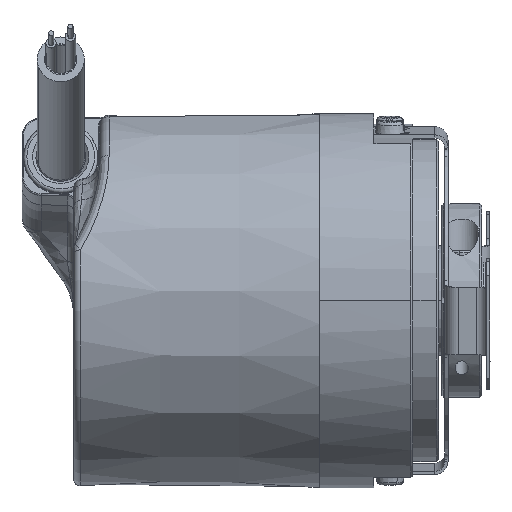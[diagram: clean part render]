
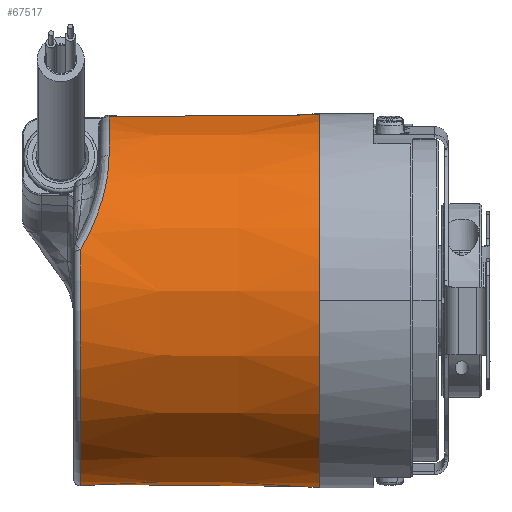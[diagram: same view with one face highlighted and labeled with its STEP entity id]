
A CAD part, top view. The second image highlights one B-rep face of the part: STEP entity #67517.
In plain terms, the highlighted conical face has half-angle 0.5 degrees and reference radius 29 mm.
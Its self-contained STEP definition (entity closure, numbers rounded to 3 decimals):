
#3271 = CIRCLE ( 'NONE', #15108, 28.677 ) ;
#3272 = CIRCLE ( 'NONE', #15109, 28.716 ) ;
#4227 = EDGE_CURVE ( 'NONE', #36763, #36796, #3271, .T. ) ;
#4229 = EDGE_CURVE ( 'NONE', #36770, #36707, #3272, .T. ) ;
#13762 = ORIENTED_EDGE ( 'NONE', *, *, #4229, .T. ) ;
#13770 = ORIENTED_EDGE ( 'NONE', *, *, #77548, .F. ) ;
#13783 = ORIENTED_EDGE ( 'NONE', *, *, #53351, .T. ) ;
#13860 = ORIENTED_EDGE ( 'NONE', *, *, #77550, .T. ) ;
#13896 = ORIENTED_EDGE ( 'NONE', *, *, #4227, .T. ) ;
#13925 = ORIENTED_EDGE ( 'NONE', *, *, #53350, .T. ) ;
#14969 = CARTESIAN_POINT ( 'NONE',  ( -29.509, 0., 0. ) ) ;
#14970 = DIRECTION ( 'NONE',  ( 1., 0., 0. ) ) ;
#14971 = DIRECTION ( 'NONE',  ( 0., 0.992, 0.126 ) ) ;
#14973 = CARTESIAN_POINT ( 'NONE',  ( -25.013, 0., 0. ) ) ;
#14974 = DIRECTION ( 'NONE',  ( 1., 0., 0. ) ) ;
#14975 = DIRECTION ( 'NONE',  ( 0., -0.992, -0.126 ) ) ;
#15108 = AXIS2_PLACEMENT_3D ( 'NONE', #14969, #14970, #14971 ) ;
#15109 = AXIS2_PLACEMENT_3D ( 'NONE', #14973, #14974, #14975 ) ;
#18662 = CARTESIAN_POINT ( 'NONE',  ( -25.013, 22.498, 17.845 ) ) ;
#18683 = CARTESIAN_POINT ( 'NONE',  ( -29.509, 7.702, 27.623 ) ) ;
#18685 = CARTESIAN_POINT ( 'NONE',  ( -25.013, 28.487, 3.624 ) ) ;
#18693 = CARTESIAN_POINT ( 'NONE',  ( -29.509, -28.448, -3.619 ) ) ;
#18713 = CARTESIAN_POINT ( 'NONE',  ( 7.5, -28.768, -3.66 ) ) ;
#21035 = CIRCLE ( 'NONE', #26308, 29. ) ;
#26308 = AXIS2_PLACEMENT_3D ( 'NONE', #28193, #28194, #28195 ) ;
#28191 = CARTESIAN_POINT ( 'NONE',  ( -25.013, 22.498, 17.845 ) ) ;
#28192 = CARTESIAN_POINT ( 'NONE',  ( -25.013, 21.517, 19.082 ) ) ;
#28193 = CARTESIAN_POINT ( 'NONE',  ( 7.5, 0., 0. ) ) ;
#28194 = DIRECTION ( 'NONE',  ( -1., 0., 0. ) ) ;
#28195 = DIRECTION ( 'NONE',  ( 0., 0.992, 0.126 ) ) ;
#28196 = CARTESIAN_POINT ( 'NONE',  ( -25.087, 20.446, 20.223 ) ) ;
#28197 = CARTESIAN_POINT ( 'NONE',  ( -25.298, 19.001, 21.531 ) ) ;
#28198 = CARTESIAN_POINT ( 'NONE',  ( -25.346, 18.706, 21.787 ) ) ;
#28199 = CARTESIAN_POINT ( 'NONE',  ( -25.455, 18.107, 22.287 ) ) ;
#28200 = CARTESIAN_POINT ( 'NONE',  ( -25.516, 17.801, 22.531 ) ) ;
#28201 = CARTESIAN_POINT ( 'NONE',  ( -25.716, 16.88, 23.237 ) ) ;
#28202 = CARTESIAN_POINT ( 'NONE',  ( -25.874, 16.255, 23.676 ) ) ;
#28203 = CARTESIAN_POINT ( 'NONE',  ( -26.423, 14.351, 24.905 ) ) ;
#28204 = CARTESIAN_POINT ( 'NONE',  ( -26.889, 13.044, 25.606 ) ) ;
#28205 = CARTESIAN_POINT ( 'NONE',  ( -27.755, 11.042, 26.493 ) ) ;
#28206 = CARTESIAN_POINT ( 'NONE',  ( -28.072, 10.367, 26.76 ) ) ;
#28207 = CARTESIAN_POINT ( 'NONE',  ( -28.753, 9.03, 27.235 ) ) ;
#28208 = CARTESIAN_POINT ( 'NONE',  ( -29.119, 8.364, 27.442 ) ) ;
#28209 = CARTESIAN_POINT ( 'NONE',  ( -29.509, 7.702, 27.623 ) ) ;
#29371 = B_SPLINE_CURVE_WITH_KNOTS ( 'NONE', 3,
 ( #28191, #28192, #28196, #28197, #28198, #28199, #28200, #28201, #28202, #28203, #28204, #28205, #28206, #28207, #28208, #28209 ),
 .UNSPECIFIED., .F., .F.,
 ( 4, 2, 2, 2, 2, 2, 2, 4 ),
 ( 0., 0.005, 0.006, 0.007, 0.009, 0.014, 0.016, 0.019 ),
 .UNSPECIFIED. ) ;
#30187 = CARTESIAN_POINT ( 'NONE',  ( 7.5, 28.768, 3.66 ) ) ;
#36383 = AXIS2_PLACEMENT_3D ( 'NONE', #39715, #39713, #39711 ) ;
#36707 = VERTEX_POINT ( 'NONE', #18662 ) ;
#36763 = VERTEX_POINT ( 'NONE', #18683 ) ;
#36770 = VERTEX_POINT ( 'NONE', #18685 ) ;
#36796 = VERTEX_POINT ( 'NONE', #18693 ) ;
#36882 = VERTEX_POINT ( 'NONE', #18713 ) ;
#39711 = DIRECTION ( 'NONE',  ( 0., -0.992, -0.126 ) ) ;
#39713 = DIRECTION ( 'NONE',  ( 1., 0., 0. ) ) ;
#39715 = CARTESIAN_POINT ( 'NONE',  ( 7.5, 0., 0. ) ) ;
#40157 = FACE_OUTER_BOUND ( 'NONE', #58085, .T. ) ;
#40167 = CONICAL_SURFACE ( 'NONE', #36383, 29., 0.009 ) ;
#47511 = LINE ( 'NONE', #52853, #47549 ) ;
#47549 = VECTOR ( 'NONE', #52847, 1000. ) ;
#47550 = LINE ( 'NONE', #52852, #47552 ) ;
#47552 = VECTOR ( 'NONE', #52851, 1000. ) ;
#52847 = DIRECTION ( 'NONE',  ( 1., 0.009, 0.001 ) ) ;
#52851 = DIRECTION ( 'NONE',  ( 1., -0.009, -0.001 ) ) ;
#52852 = CARTESIAN_POINT ( 'NONE',  ( 7.5, -28.768, -3.66 ) ) ;
#52853 = CARTESIAN_POINT ( 'NONE',  ( 7.5, 28.768, 3.66 ) ) ;
#53350 = EDGE_CURVE ( 'NONE', #36882, #55015, #21035, .T. ) ;
#53351 = EDGE_CURVE ( 'NONE', #36707, #36763, #29371, .T. ) ;
#55015 = VERTEX_POINT ( 'NONE', #30187 ) ;
#58085 = EDGE_LOOP ( 'NONE', ( #13770, #13762, #13783, #13896, #13860, #13925 ) ) ;
#67517 = ADVANCED_FACE ( 'NONE', ( #40157 ), #40167, .T. ) ;
#77548 = EDGE_CURVE ( 'NONE', #36770, #55015, #47511, .T. ) ;
#77550 = EDGE_CURVE ( 'NONE', #36796, #36882, #47550, .T. ) ;
